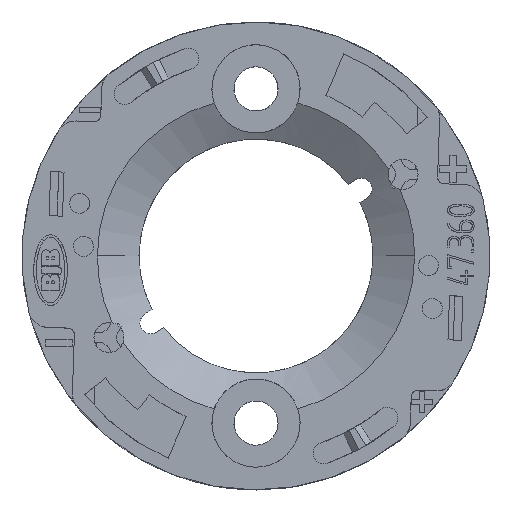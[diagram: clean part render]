
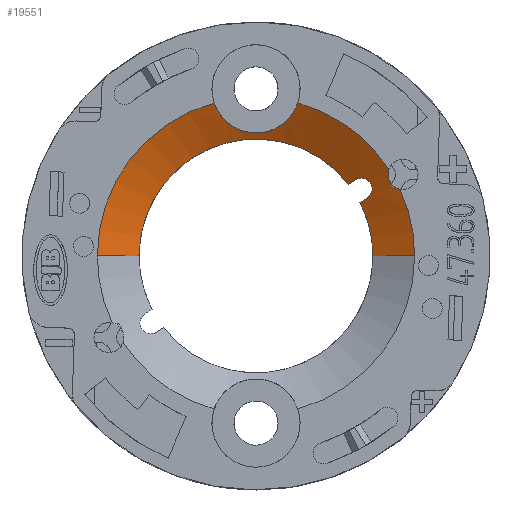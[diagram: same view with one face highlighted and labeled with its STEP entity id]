
A CAD part, top view. The second image highlights one B-rep face of the part: STEP entity #19551.
In plain terms, the highlighted free-form (B-spline) face has degree [7, 1] with [8, 2] control points.
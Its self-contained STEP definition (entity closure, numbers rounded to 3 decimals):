
#9981=CARTESIAN_POINT(' ',(10.763,5.,3.));
#9982=VERTEX_POINT(' ',#9981);
#9996=CARTESIAN_POINT(' ',(0.,0.,3.));
#10001=DIRECTION(' ',(0.,0.,-1.));
#10006=DIRECTION(' ',(0.907,0.421,0.));
#10011=AXIS2_PLACEMENT_3D(' ',#9996,#10001,#10006);
#10016=CIRCLE('',#10011,11.868);
#10021=CARTESIAN_POINT(' ',(11.868,0.,3.));
#10022=VERTEX_POINT(' ',#10021);
#10026=EDGE_CURVE(' ',#9982,#10022,#10016,.T.);
#10301=CARTESIAN_POINT(' ',(-11.868,0.,3.));
#10302=VERTEX_POINT(' ',#10301);
#10316=CARTESIAN_POINT(' ',(0.,0.,3.));
#10321=DIRECTION(' ',(0.,0.,-1.));
#10326=DIRECTION(' ',(-1.,0.,0.));
#10331=AXIS2_PLACEMENT_3D(' ',#10316,#10321,#10326);
#10336=CIRCLE('',#10331,11.868);
#10341=CARTESIAN_POINT(' ',(-3.128,11.448,3.));
#10342=VERTEX_POINT(' ',#10341);
#10346=EDGE_CURVE(' ',#10302,#10342,#10336,.T.);
#10421=CARTESIAN_POINT(' ',(3.128,11.448,3.));
#10422=VERTEX_POINT(' ',#10421);
#10436=CARTESIAN_POINT(' ',(0.,0.,3.));
#10441=DIRECTION(' ',(0.,0.,-1.));
#10446=DIRECTION(' ',(0.264,0.965,0.));
#10451=AXIS2_PLACEMENT_3D(' ',#10436,#10441,#10446);
#10456=CIRCLE('',#10451,11.867);
#10461=CARTESIAN_POINT(' ',(9.942,6.481,3.));
#10462=VERTEX_POINT(' ',#10461);
#10466=EDGE_CURVE(' ',#10422,#10462,#10456,.T.);
#18971=CARTESIAN_POINT(' ',(9.942,6.481,3.));
#18976=CARTESIAN_POINT(' ',(9.852,6.233,2.878));
#18981=CARTESIAN_POINT(' ',(9.852,5.929,2.785));
#18986=CARTESIAN_POINT(' ',(10.072,5.403,2.745));
#18991=CARTESIAN_POINT(' ',(10.286,5.192,2.799));
#18996=CARTESIAN_POINT(' ',(10.602,5.044,2.927));
#19001=CARTESIAN_POINT(' ',(10.682,5.018,2.962));
#19006=CARTESIAN_POINT(' ',(10.763,5.,3.));
#19011=B_SPLINE_CURVE_WITH_KNOTS('',3,(#18971,#18976,#18981,#18986,#18991,#18996,#19001,#19006),.UNSPECIFIED.,.F.,.U.,(4,2,2,4),(0.,0.43,0.86,1.),.UNSPECIFIED.);
#19016=EDGE_CURVE(' ',#10462,#9982,#19011,.T.);
#19046=CARTESIAN_POINT(' ',(11.868,0.,3.));
#19051=CARTESIAN_POINT(' ',(8.75,0.,1.2));
#19056=CARTESIAN_POINT(' ',(11.868,5.326,3.));
#19061=CARTESIAN_POINT(' ',(8.75,3.927,1.2));
#19066=CARTESIAN_POINT(' ',(9.078,10.647,3.));
#19071=CARTESIAN_POINT(' ',(6.693,7.85,1.2));
#19076=CARTESIAN_POINT(' ',(3.506,14.247,3.));
#19081=CARTESIAN_POINT(' ',(2.585,10.504,1.2));
#19086=CARTESIAN_POINT(' ',(-3.506,14.247,3.));
#19091=CARTESIAN_POINT(' ',(-2.585,10.504,1.2));
#19096=CARTESIAN_POINT(' ',(-9.078,10.647,3.));
#19101=CARTESIAN_POINT(' ',(-6.693,7.85,1.2));
#19106=CARTESIAN_POINT(' ',(-11.868,5.326,3.));
#19111=CARTESIAN_POINT(' ',(-8.75,3.927,1.2));
#19116=CARTESIAN_POINT(' ',(-11.868,0.,3.));
#19121=CARTESIAN_POINT(' ',(-8.75,0.,1.2));
#19126=B_SPLINE_SURFACE_WITH_KNOTS(' ',7,1,((#19046,#19051),(#19056,#19061),(#19066,#19071),(#19076,#19081),(#19086,#19091),(#19096,#19101),(#19106,#19111),(#19116,#19121)),.UNSPECIFIED.,.F.,.F.,.U.,(8,8),(2,2),(0.,1.),(0.,1.),.UNSPECIFIED.);
#19131=CARTESIAN_POINT(' ',(-11.868,0.,3.));
#19136=DIRECTION(' ',(0.866,0.,-0.5));
#19141=VECTOR(' ',#19136,1.);
#19146=LINE('',#19131,#19141);
#19151=CARTESIAN_POINT(' ',(-8.75,0.,1.2));
#19152=VERTEX_POINT(' ',#19151);
#19156=EDGE_CURVE(' ',#10302,#19152,#19146,.T.);
#19161=ORIENTED_EDGE(' ',*,*,#19156,.T.);
#19166=CARTESIAN_POINT(' ',(0.,0.,1.2));
#19171=DIRECTION(' ',(0.,0.,-1.));
#19176=DIRECTION(' ',(-1.,0.,0.));
#19181=AXIS2_PLACEMENT_3D(' ',#19166,#19171,#19176);
#19186=CIRCLE('',#19181,8.75);
#19191=CARTESIAN_POINT(' ',(6.919,5.356,1.2));
#19192=VERTEX_POINT(' ',#19191);
#19196=EDGE_CURVE(' ',#19152,#19192,#19186,.T.);
#19201=ORIENTED_EDGE(' ',*,*,#19196,.T.);
#19206=CARTESIAN_POINT(' ',(7.455,5.698,1.566));
#19211=DIRECTION(' ',(-0.731,-0.466,-0.499));
#19216=VECTOR(' ',#19211,1.);
#19221=LINE('',#19206,#19216);
#19226=CARTESIAN_POINT(' ',(7.455,5.698,1.566));
#19227=VERTEX_POINT(' ',#19226);
#19231=EDGE_CURVE(' ',#19227,#19192,#19221,.T.);
#19236=ORIENTED_EDGE(' ',*,*,#19231,.F.);
#19241=CARTESIAN_POINT(' ',(8.315,4.349,1.566));
#19246=CARTESIAN_POINT(' ',(8.582,4.519,1.748));
#19251=CARTESIAN_POINT(' ',(8.748,4.859,1.922));
#19256=CARTESIAN_POINT(' ',(8.612,5.423,2.023));
#19261=CARTESIAN_POINT(' ',(8.461,5.622,2.012));
#19266=CARTESIAN_POINT(' ',(8.001,5.87,1.876));
#19271=CARTESIAN_POINT(' ',(7.687,5.846,1.724));
#19276=CARTESIAN_POINT(' ',(7.455,5.698,1.566));
#19281=B_SPLINE_CURVE_WITH_KNOTS('',3,(#19241,#19246,#19251,#19256,#19261,#19266,#19271,#19276),.UNSPECIFIED.,.F.,.U.,(4,2,2,4),(0.,0.413,0.662,1.),.UNSPECIFIED.);
#19286=CARTESIAN_POINT(' ',(8.315,4.349,1.566));
#19287=VERTEX_POINT(' ',#19286);
#19291=EDGE_CURVE(' ',#19287,#19227,#19281,.T.);
#19296=ORIENTED_EDGE(' ',*,*,#19291,.F.);
#19301=CARTESIAN_POINT(' ',(7.779,4.007,1.2));
#19306=DIRECTION(' ',(0.731,0.466,0.499));
#19311=VECTOR(' ',#19306,1.);
#19316=LINE('',#19301,#19311);
#19321=CARTESIAN_POINT(' ',(7.779,4.007,1.2));
#19322=VERTEX_POINT(' ',#19321);
#19326=EDGE_CURVE(' ',#19322,#19287,#19316,.T.);
#19331=ORIENTED_EDGE(' ',*,*,#19326,.F.);
#19336=CARTESIAN_POINT(' ',(0.,0.,1.2));
#19341=DIRECTION(' ',(0.,0.,-1.));
#19346=DIRECTION(' ',(0.889,0.458,0.));
#19351=AXIS2_PLACEMENT_3D(' ',#19336,#19341,#19346);
#19356=CIRCLE('',#19351,8.75);
#19361=CARTESIAN_POINT(' ',(8.75,0.,1.2));
#19362=VERTEX_POINT(' ',#19361);
#19366=EDGE_CURVE(' ',#19322,#19362,#19356,.T.);
#19371=ORIENTED_EDGE(' ',*,*,#19366,.T.);
#19376=CARTESIAN_POINT(' ',(8.75,0.,1.2));
#19381=DIRECTION(' ',(0.866,0.,0.5));
#19386=VECTOR(' ',#19381,1.);
#19391=LINE('',#19376,#19386);
#19396=EDGE_CURVE(' ',#19362,#10022,#19391,.T.);
#19401=ORIENTED_EDGE(' ',*,*,#19396,.T.);
#19406=ORIENTED_EDGE(' ',*,*,#10026,.F.);
#19411=ORIENTED_EDGE(' ',*,*,#19016,.F.);
#19416=ORIENTED_EDGE(' ',*,*,#10466,.F.);
#19421=CARTESIAN_POINT(' ',(-0.986,12.739,3.144));
#19426=DIRECTION(' ',(-0.122,-0.486,0.865));
#19431=DIRECTION(' ',(0.85,-0.502,-0.162));
#19436=AXIS2_PLACEMENT_3D(' ',#19421,#19426,#19431);
#19441=CIRCLE('',#19436,4.314);
#19446=CARTESIAN_POINT(' ',(2.68,10.574,2.446));
#19447=VERTEX_POINT(' ',#19446);
#19451=EDGE_CURVE(' ',#19447,#10422,#19441,.T.);
#19456=ORIENTED_EDGE(' ',*,*,#19451,.F.);
#19461=CARTESIAN_POINT(' ',(-3.128,11.448,3.));
#19466=CARTESIAN_POINT(' ',(-2.954,10.931,2.686));
#19471=CARTESIAN_POINT(' ',(-2.631,10.426,2.353));
#19476=CARTESIAN_POINT(' ',(-1.841,9.719,1.857));
#19481=CARTESIAN_POINT(' ',(-1.41,9.466,1.666));
#19486=CARTESIAN_POINT(' ',(-0.526,9.222,1.477));
#19491=CARTESIAN_POINT(' ',(-0.119,9.179,1.443));
#19496=CARTESIAN_POINT(' ',(0.865,9.261,1.507));
#19501=CARTESIAN_POINT(' ',(1.328,9.442,1.65));
#19506=CARTESIAN_POINT(' ',(2.113,9.926,2.004));
#19511=CARTESIAN_POINT(' ',(2.431,10.228,2.217));
#19516=CARTESIAN_POINT(' ',(2.68,10.574,2.446));
#19521=B_SPLINE_CURVE_WITH_KNOTS('',3,(#19461,#19466,#19471,#19476,#19481,#19486,#19491,#19496,#19501,#19506,#19511,#19516),.UNSPECIFIED.,.F.,.U.,(4,2,2,2,2,4),(0.,0.249,0.456,0.594,0.802,1.),.UNSPECIFIED.);
#19526=EDGE_CURVE(' ',#10342,#19447,#19521,.T.);
#19531=ORIENTED_EDGE(' ',*,*,#19526,.F.);
#19536=ORIENTED_EDGE(' ',*,*,#10346,.F.);
#19541=EDGE_LOOP(' ',(#19161,#19201,#19236,#19296,#19331,#19371,#19401,#19406,#19411,#19416,#19456,#19531,#19536));
#19546=FACE_OUTER_BOUND(' ',#19541,.T.);
#19551=ADVANCED_FACE('',(#19546),#19126,.T.);
